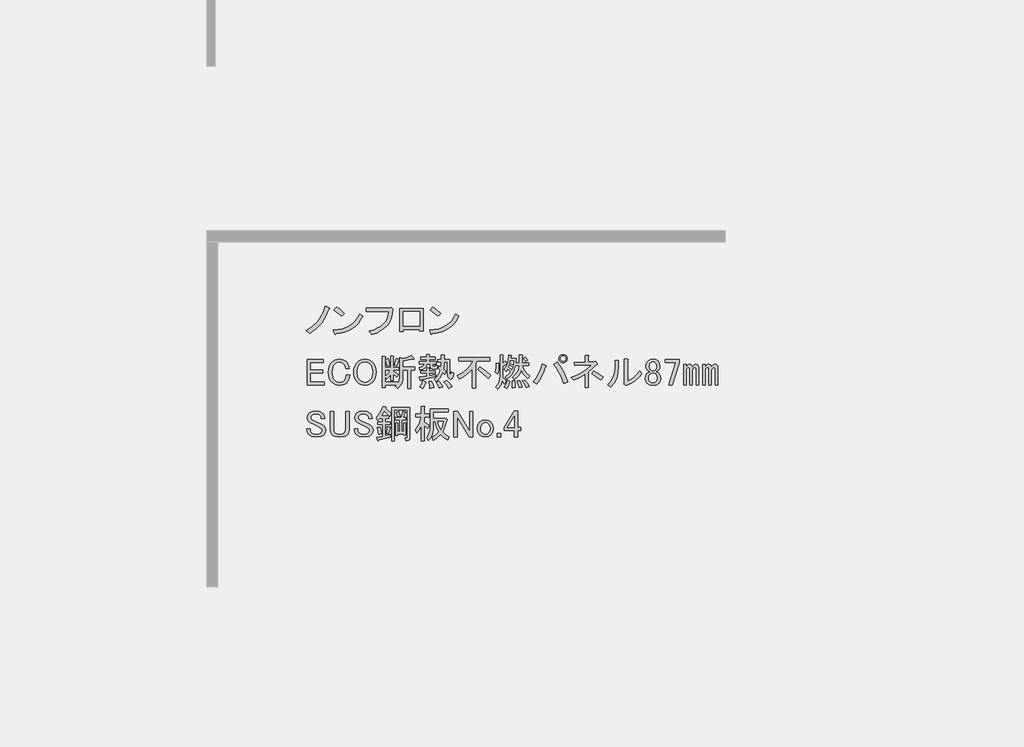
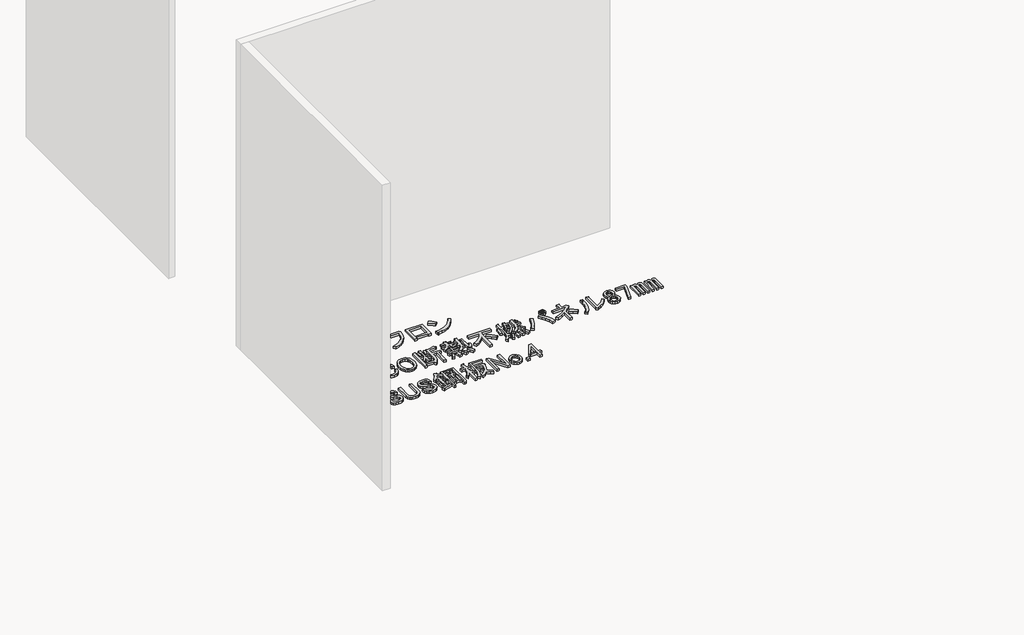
# One storey, part 63 of 117: 1 proxy.
"""IFC4 building model written with IfcOpenShell, lengths in millimetres."""

from ifc_helpers import new_model, si_unit, frame, origin, place, context, project, spatial, polyline, outline, extrude, element, save

model = new_model("IFC4")

# Units and contexts
model_context = context("Model", 3, world=origin())
ifc_project = project(units=[si_unit("LENGTHUNIT", "METRE", prefix="MILLI")], contexts=[model_context])

# Site, building, storey
site = spatial("IfcSite", under=ifc_project)
building = spatial("IfcBuilding", under=site)
storey = spatial("IfcBuildingStorey", under=building, Name="レベル 1", Elevation=500.0)

# Proxy
placement = place(None, origin())
element("IfcBuildingElementProxy", 1, Name="200㎜\u3000MS Pゴシック", ObjectType="200㎜\u3000MS Pゴシック", at=placement, inside=storey, context=model_context, shape_type="SweptSolid", body=[
    extrude(outline(polyline([(48940.1706985, -603.5496882), (48914.5952502, -663.3215225), (48886.146156, -709.2998566), (48844.4782907, -754.7034615), (48795.3389462, -792.060858), (48767.7519457, -770.2211493), (48815.4544673, -739.7605029), (48855.1107805, -701.2536481), (48872.4963381, -677.3305462), (48887.8703435, -649.2406577), (48901.2327969, -616.9839827), (48912.5836981, -580.5605212), (48943.6190736, -594.3540214), (48946.7800841, -598.9518548), (48940.1706985, -603.5496882)])), frame((0.0, 0.0, 500.0), z_axis=(0.0, 0.0, 1.0), x_axis=(1.0, 0.0, 0.0)), (0.0, 0.0, 1.0), 25.0),
    extrude(outline(polyline([(49039.8977052, -658.7236891), (48981.2753292, -611.5958967), (49000.8161212, -587.4572713), (49028.1157571, -607.2854279), (49061.7374138, -636.8839804), (49039.8977052, -658.7236891)])), frame((0.0, 0.0, 500.0), z_axis=(0.0, 0.0, 1.0), x_axis=(1.0, 0.0, 0.0)), (0.0, 0.0, 1.0), 25.0),
    extrude(outline(polyline([(49201.9713328, -658.7236891), (49185.447869, -688.465924), (49166.3381239, -714.4724192), (49144.6420975, -736.7431748), (49120.3597898, -755.2781907), (49093.4912008, -770.077467), (49064.0363306, -781.1410036), (49031.995179, -788.4688006), (48997.3677461, -792.060858), (48991.6204544, -800.1070664), (48985.8731626, -794.3597747), (48976.6774958, -764.4738575), (49012.5082679, -761.7977748), (49045.2857912, -755.4937141), (49075.0100658, -745.5616756), (49101.6810916, -732.0016591), (49125.2988687, -714.8136646), (49145.863397, -693.9976923), (49163.3746766, -669.553742), (49177.8327074, -641.4818138), (49201.9713328, -658.7236891)])), frame((0.0, 0.0, 500.0), z_axis=(0.0, 0.0, 1.0), x_axis=(1.0, 0.0, 0.0)), (0.0, 0.0, 1.0), 25.0),
    extrude(outline(polyline([(49252.7314136, -773.6695243), (49286.514713, -763.9889298), (49316.0234641, -751.6142922), (49341.257667, -736.5456116), (49362.2173217, -718.782888), (49378.902428, -698.3261214), (49391.3129862, -675.1753118), (49399.4489961, -649.3304591), (49403.3104577, -620.7915635), (49230.8917049, -620.7915635), (49230.8917049, -595.5034798), (49405.6093744, -595.5034798), (49421.7017914, -592.0551047), (49434.3458332, -603.5496882), (49430.825617, -640.0449909), (49422.5638851, -673.0919185), (49409.5606375, -702.6904711), (49391.8158742, -728.8406486), (49369.3295952, -751.542451), (49342.1018005, -770.7958784), (49310.1324901, -786.6009308), (49273.421664, -798.9576081), (49252.7314136, -773.6695243)])), frame((0.0, 0.0, 500.0), z_axis=(0.0, 0.0, 1.0), x_axis=(1.0, 0.0, 0.0)), (0.0, 0.0, 1.0), 25.0),
    extrude(outline(polyline([(49667.455987, -772.520066), (49641.0184449, -772.520066), (49641.0184449, -759.8760241), (49513.4285679, -759.8760241), (49513.4285679, -778.2673577), (49486.9910258, -778.2673577), (49486.9910258, -598.9518548), (49667.455987, -598.9518548), (49667.455987, -772.520066)]), holes=[polyline([(49513.4285679, -624.2399386), (49513.4285679, -734.5879404), (49641.0184449, -734.5879404), (49641.0184449, -624.2399386), (49513.4285679, -624.2399386)])]), frame((0.0, 0.0, 500.0), z_axis=(0.0, 0.0, 1.0), x_axis=(1.0, 0.0, 0.0)), (0.0, 0.0, 1.0), 25.0),
    extrude(outline(polyline([(49943.5099049, -658.7236891), (49926.9864411, -688.465924), (49907.876696, -714.4724192), (49886.1806696, -736.7431748), (49861.8983619, -755.2781907), (49835.0297729, -770.077467), (49805.5749026, -781.1410036), (49773.5337511, -788.4688006), (49738.9063182, -792.060858), (49733.1590264, -800.1070664), (49727.4117347, -794.3597747), (49718.2160679, -764.4738575), (49754.0468399, -761.7977748), (49786.8243633, -755.4937141), (49816.5486378, -745.5616756), (49843.2196637, -732.0016591), (49866.8374407, -714.8136646), (49887.4019691, -693.9976923), (49904.9132486, -669.553742), (49919.3712795, -641.4818138), (49943.5099049, -658.7236891)])), frame((0.0, 0.0, 500.0), z_axis=(0.0, 0.0, 1.0), x_axis=(1.0, 0.0, 0.0)), (0.0, 0.0, 1.0), 25.0),
    extrude(outline(polyline([(49781.4362772, -658.7236891), (49722.8139013, -611.5958967), (49742.3546933, -587.4572713), (49769.6543291, -607.2854279), (49803.2759859, -636.8839804), (49781.4362772, -658.7236891)])), frame((0.0, 0.0, 500.0), z_axis=(0.0, 0.0, 1.0), x_axis=(1.0, 0.0, 0.0)), (0.0, 0.0, 1.0), 25.0),
    extrude(outline(polyline([(48773.4992375, -992.0551047), (48899.9396562, -992.0551047), (48899.9396562, -1013.8948134), (48799.9367796, -1013.8948134), (48799.9367796, -1074.816106), (48893.0429061, -1074.816106), (48893.0429061, -1096.6558147), (48799.9367796, -1096.6558147), (48799.9367796, -1166.7727742), (48905.686948, -1166.7727742), (48905.686948, -1188.6124829), (48773.4992375, -1188.6124829), (48773.4992375, -992.0551047)])), frame((0.0, 0.0, 500.0), z_axis=(0.0, 0.0, 1.0), x_axis=(1.0, 0.0, 0.0)), (0.0, 0.0, 1.0), 25.0),
    extrude(outline(polyline([(48937.7798252, -1090.908523), (48939.5758538, -1066.985421), (48944.9639399, -1045.7922827), (48953.9440832, -1027.3291079), (48966.516284, -1011.5958967), (48991.5170031, -995.2161152), (49022.8397432, -989.756188), (49053.5877541, -994.641386), (49076.8642858, -1009.29698), (49092.6693381, -1032.8608762), (49098.7039944, -1062.1720642), (49071.116994, -1062.1720642), (49066.231796, -1040.9070847), (49056.1740354, -1025.3893969), (49040.9437123, -1015.0442717), (49022.8397432, -1011.5958967), (49003.2989512, -1015.6190009), (48986.0570759, -1027.6883136), (48977.0050914, -1039.3984206), (48970.5393882, -1053.8384911), (48965.3668256, -1090.908523), (48970.5393882, -1127.9785548), (48977.0050914, -1142.4186254), (48986.0570759, -1154.1287323), (49002.7242221, -1165.3359513), (49022.8397432, -1169.0716909), (49043.242629, -1165.9106804), (49058.4729521, -1156.427649), (49070.5422648, -1136.8868571), (49074.5653691, -1110.449315), (49102.1523695, -1110.449315), (49095.8303486, -1145.2204301), (49088.7899162, -1159.3731361), (49079.1632025, -1171.3706076), (49068.3151893, -1179.9197041), (49055.3119417, -1186.0262016), (49022.8397432, -1190.9113996), (48991.5170031, -1185.4514724), (48966.516284, -1169.0716909), (48953.9440832, -1153.4103209), (48944.9639399, -1135.1626695), (48939.5758538, -1114.3287369), (48937.7798252, -1090.908523)])), frame((0.0, 0.0, 500.0), z_axis=(0.0, 0.0, 1.0), x_axis=(1.0, 0.0, 0.0)), (0.0, 0.0, 1.0), 25.0),
    extrude(outline(polyline([(49133.1417667, -1089.7590646), (49134.8659542, -1066.9135799), (49140.0385168, -1046.6543764), (49148.6594544, -1028.9814543), (49160.7287671, -1013.8948134), (49173.4446501, -1003.3341648), (49187.4536738, -995.7908443), (49202.7558381, -991.2648521), (49219.3511431, -989.756188), (49235.946448, -991.2648521), (49251.2486123, -995.7908443), (49265.257636, -1003.3341648), (49277.973519, -1013.8948134), (49290.0428317, -1028.9814543), (49298.6637694, -1046.6543764), (49303.836332, -1066.9135799), (49305.5605195, -1089.7590646), (49303.836332, -1112.6045494), (49298.6637694, -1132.8637528), (49290.0428317, -1150.536675), (49277.973519, -1165.6233159), (49265.257636, -1176.1839645), (49251.2486123, -1183.7272849), (49235.946448, -1188.2532772), (49219.3511431, -1189.7619413), (49202.7558381, -1188.2532772), (49187.4536738, -1183.7272849), (49173.4446501, -1176.1839645), (49160.7287671, -1165.6233159), (49148.6594544, -1150.536675), (49140.0385168, -1132.8637528), (49134.8659542, -1112.6045494), (49133.1417667, -1089.7590646)]), holes=[polyline([(49219.3511431, -1011.5958967), (49198.6608927, -1015.9063655), (49180.2695591, -1028.837772), (49171.7204626, -1039.9731498), (49165.6139651, -1053.8384911), (49160.7287671, -1089.7590646), (49165.6139651, -1125.6796381), (49171.7204626, -1139.5449795), (49180.2695591, -1150.6803573), (49198.6608927, -1163.6117637), (49219.3511431, -1167.9222326), (49240.0413934, -1163.6117637), (49258.432727, -1150.6803573), (49266.9818235, -1139.5449795), (49273.088321, -1125.6796381), (49277.973519, -1089.7590646), (49273.088321, -1053.8384911), (49266.9818235, -1039.9731498), (49258.432727, -1028.837772), (49240.0413934, -1015.9063655), (49219.3511431, -1011.5958967)])]), frame((0.0, 0.0, 500.0), z_axis=(0.0, 0.0, 1.0), x_axis=(1.0, 0.0, 0.0)), (0.0, 0.0, 1.0), 25.0),
    extrude(outline(polyline([(49444.3691101, -1035.7345221), (49461.6109854, -982.8594379), (49482.3012357, -988.6067296), (49484.0254232, -991.7677401), (49480.002319, -994.3540214), (49462.7604437, -1042.6312722), (49444.3691101, -1035.7345221)])), frame((0.0, 0.0, 500.0), z_axis=(0.0, 0.0, 1.0), x_axis=(1.0, 0.0, 0.0)), (0.0, 0.0, 1.0), 25.0),
    extrude(outline(polyline([(49598.3965292, -987.4572713), (49596.6723417, -992.0551047), (49589.2008624, -989.756188), (49512.1871528, -1002.4002299), (49512.1871528, -1051.826939), (49604.143821, -1051.826939), (49604.143821, -1073.6666477), (49573.1084455, -1073.6666477), (49573.1084455, -1213.9005666), (49550.1192785, -1213.9005666), (49550.1192785, -1073.6666477), (49512.1871528, -1073.6666477), (49512.1871528, -1123.0933568), (49509.6008716, -1150.8958807), (49501.8420277, -1175.6810764), (49488.9106212, -1197.448944), (49470.8066522, -1216.1994833), (49453.5647769, -1196.6586914), (49463.9099021, -1187.4630245), (49374.2521506, -1187.4630245), (49374.2521506, -1209.3027332), (49351.2629836, -1209.3027332), (49351.2629836, -970.215396), (49373.1026922, -970.215396), (49377.9878902, -972.5143127), (49374.2521506, -977.1121461), (49374.2521506, -1052.9763974), (49416.7821096, -1052.9763974), (49416.7821096, -965.6175626), (49435.1734433, -965.6175626), (49440.0586413, -967.9164793), (49436.3229016, -972.5143127), (49436.3229016, -1052.9763974), (49480.002319, -1052.9763974), (49480.002319, -1071.367731), (49436.3229016, -1071.367731), (49436.3229016, -1080.5633978), (49476.5539439, -1107.0009399), (49462.7604437, -1128.8406486), (49436.3229016, -1102.4031065), (49436.3229016, -1155.2781907), (49416.7821096, -1155.2781907), (49416.7821096, -1107.0009399), (49403.5633386, -1126.8290965), (49389.1951092, -1142.6341488), (49376.5510673, -1124.2428152), (49398.390776, -1100.1041898), (49415.6326513, -1071.367731), (49374.2521506, -1071.367731), (49374.2521506, -1165.6233159), (49471.9561105, -1165.6233159), (49471.9561105, -1179.4168161), (49484.887517, -1155.2781907), (49489.1979858, -1121.9438985), (49489.1979858, -977.1121461), (49511.0376945, -982.8594379), (49547.2456326, -975.3879586), (49577.7062789, -962.1691875), (49598.3965292, -987.4572713)])), frame((0.0, 0.0, 500.0), z_axis=(0.0, 0.0, 1.0), x_axis=(1.0, 0.0, 0.0)), (0.0, 0.0, 1.0), 25.0),
    extrude(outline(polyline([(49390.3445675, -1043.7807305), (49377.7005257, -993.2045631), (49397.2413176, -986.3078129), (49405.0001615, -1010.4464383), (49409.8853595, -1036.8839804), (49390.3445675, -1043.7807305)])), frame((0.0, 0.0, 500.0), z_axis=(0.0, 0.0, 1.0), x_axis=(1.0, 0.0, 0.0)), (0.0, 0.0, 1.0), 25.0),
    extrude(outline(polyline([(49734.0326148, -1159.8760241), (49744.0903754, -1187.17566), (49748.9755734, -1209.3027332), (49720.2391146, -1215.050025), (49717.6528333, -1193.4976809), (49709.8939894, -1163.3243992), (49734.0326148, -1159.8760241)])), frame((0.0, 0.0, 500.0), z_axis=(0.0, 0.0, 1.0), x_axis=(1.0, 0.0, 0.0)), (0.0, 0.0, 1.0), 25.0),
    extrude(outline(polyline([(49790.356074, -1212.7511083), (49782.022501, -1188.0377537), (49768.5163654, -1166.7727742), (49789.2066157, -1158.7265657), (49806.1611264, -1180.2789098), (49817.9430745, -1203.5554415), (49790.356074, -1212.7511083)])), frame((0.0, 0.0, 500.0), z_axis=(0.0, 0.0, 1.0), x_axis=(1.0, 0.0, 0.0)), (0.0, 0.0, 1.0), 25.0),
    extrude(outline(polyline([(49689.2037391, -1164.4738575), (49692.6521141, -1169.3590555), (49686.9048224, -1172.520066), (49677.1344264, -1198.0955143), (49666.214572, -1217.3489417), (49643.225405, -1205.8543582), (49655.8694469, -1182.290462), (49666.214572, -1155.2781907), (49689.2037391, -1164.4738575)])), frame((0.0, 0.0, 500.0), z_axis=(0.0, 0.0, 1.0), x_axis=(1.0, 0.0, 0.0)), (0.0, 0.0, 1.0), 25.0),
    extrude(outline(polyline([(49721.3885729, -1027.6883136), (49696.1004892, -1027.6883136), (49691.5026558, -1045.1457123), (49681.1575306, -1058.4363245), (49665.0651137, -1067.5601502), (49643.225405, -1072.5171893), (49638.6275716, -1052.9763974), (49663.9156553, -1044.3554597), (49671.3871346, -1037.0276627), (49675.4102388, -1027.6883136), (49639.7770299, -1027.6883136), (49639.7770299, -1009.29698), (49693.8015725, -1009.29698), (49693.8015725, -992.0551047), (49650.1221551, -992.0551047), (49650.1221551, -973.6637711), (49693.8015725, -973.6637711), (49693.8015725, -955.2724374), (49715.6412812, -955.2724374), (49720.5264792, -957.5713541), (49716.7907395, -962.1691875), (49716.7907395, -973.6637711), (49759.3206985, -973.6637711), (49759.3206985, -992.0551047), (49716.7907395, -992.0551047), (49716.7907395, -1009.29698), (49769.6658237, -1009.29698), (49769.6658237, -1027.6883136), (49740.9293649, -1027.6883136), (49740.9293649, -1040.3323555), (49742.3661878, -1045.5049181), (49746.6766567, -1047.2291056), (49757.0217818, -1047.2291056), (49760.7575215, -1044.0680951), (49760.4701569, -1034.5850637), (49780.0109489, -1036.8839804), (49777.137303, -1058.4363245), (49771.8210581, -1063.8244106), (49763.9185319, -1065.6204392), (49739.7799066, -1065.6204392), (49725.9864063, -1060.7352412), (49721.3885729, -1046.0796472), (49721.3885729, -1027.6883136)])), frame((0.0, 0.0, 500.0), z_axis=(0.0, 0.0, 1.0), x_axis=(1.0, 0.0, 0.0)), (0.0, 0.0, 1.0), 25.0),
    extrude(outline(polyline([(49852.4268251, -1010.4464383), (49830.5871164, -1010.4464383), (49825.989283, -1067.9193559), (49845.5300749, -1086.3106896), (49835.1849498, -1108.1503983), (49819.0925328, -1092.0579813), (49799.8391054, -1129.7027424), (49769.6658237, -1162.1749408), (49752.4239484, -1141.4846905), (49767.5105893, -1129.5590601), (49780.585678, -1114.4724192), (49791.6492147, -1096.2247679), (49800.7011992, -1074.816106), (49783.4593239, -1059.8731475), (49791.5055324, -1042.6312722), (49805.2990326, -1052.9763974), (49807.5979493, -1010.4464383), (49780.0109489, -1010.4464383), (49780.0109489, -992.0551047), (49807.5979493, -992.0551047), (49807.5979493, -957.5713541), (49829.437658, -957.5713541), (49834.322856, -959.8702708), (49830.5871164, -964.4681043), (49830.5871164, -992.0551047), (49871.967617, -992.0551047), (49871.967617, -1088.6096063), (49875.4159921, -1112.7482317), (49878.6488437, -1114.7597838), (49881.4506484, -1111.5987733), (49885.7611173, -1089.7590646), (49905.3019092, -1096.6558147), (49900.775917, -1123.4525626), (49892.945232, -1139.4731384), (49881.8098542, -1144.7175421), (49867.3697836, -1139.1857738), (49860.8322393, -1131.8579768), (49856.1625647, -1120.219711), (49852.4268251, -1084.0117729), (49852.4268251, -1010.4464383)])), frame((0.0, 0.0, 500.0), z_axis=(0.0, 0.0, 1.0), x_axis=(1.0, 0.0, 0.0)), (0.0, 0.0, 1.0), 25.0),
    extrude(outline(polyline([(49651.2716134, -1149.5308989), (49649.2600613, -1154.4160969), (49645.5243217, -1152.979274), (49639.7770299, -1128.8406486), (49694.9510308, -1120.7944401), (49694.9510308, -1097.8052731), (49651.2716134, -1097.8052731), (49651.2716134, -1079.4139395), (49694.9510308, -1079.4139395), (49694.9510308, -1056.4247724), (49713.3423645, -1056.4247724), (49718.2275625, -1058.7236891), (49714.4918228, -1063.3215225), (49714.4918228, -1079.4139395), (49759.3206985, -1079.4139395), (49759.3206985, -1097.8052731), (49714.4918228, -1097.8052731), (49714.4918228, -1117.3460651), (49765.0679903, -1108.1503983), (49765.0679903, -1124.2428152), (49651.2716134, -1149.5308989)])), frame((0.0, 0.0, 500.0), z_axis=(0.0, 0.0, 1.0), x_axis=(1.0, 0.0, 0.0)), (0.0, 0.0, 1.0), 25.0),
    extrude(outline(polyline([(49848.97845, -1154.1287323), (49873.6918046, -1175.3937119), (49892.6578674, -1200.1070664), (49866.2203253, -1215.050025), (49846.9668979, -1185.4514724), (49828.2881997, -1165.6233159), (49848.97845, -1154.1287323)])), frame((0.0, 0.0, 500.0), z_axis=(0.0, 0.0, 1.0), x_axis=(1.0, 0.0, 0.0)), (0.0, 0.0, 1.0), 25.0),
    extrude(outline(polyline([(50167.3784135, -1138.0363154), (50128.2968295, -1099.8168252), (50086.9163289, -1070.2182726), (50103.0087458, -1049.5280223), (50146.6881632, -1077.6897519), (50188.0686638, -1116.1966067), (50167.3784135, -1138.0363154)])), frame((0.0, 0.0, 500.0), z_axis=(0.0, 0.0, 1.0), x_axis=(1.0, 0.0, 0.0)), (0.0, 0.0, 1.0), 25.0),
    extrude(outline(polyline([(49940.9351182, -977.1121461), (50182.3213721, -977.1121461), (50182.3213721, -1002.4002299), (50082.3184955, -1002.4002299), (50071.9733703, -1026.5388553), (50071.9733703, -1212.7511083), (50045.5358282, -1212.7511083), (50045.5358282, -1065.6204392), (50024.7018956, -1088.8969709), (50001.2816816, -1109.2998566), (49975.2751864, -1126.8290965), (49946.6824099, -1141.4846905), (49930.589993, -1115.0471484), (49970.174465, -1094.6442626), (50003.8679629, -1069.0688143), (50031.6704868, -1038.3208034), (50053.5820367, -1002.4002299), (49940.9351182, -1002.4002299), (49940.9351182, -977.1121461)])), frame((0.0, 0.0, 500.0), z_axis=(0.0, 0.0, 1.0), x_axis=(1.0, 0.0, 0.0)), (0.0, 0.0, 1.0), 25.0),
    extrude(outline(polyline([(50354.7401249, -1211.6016499), (50355.3148541, -1184.5893787), (50352.4412082, -1156.427649), (50371.9820002, -1155.2781907), (50378.3040211, -1181.4283682), (50378.8787503, -1209.3027332), (50354.7401249, -1211.6016499)])), frame((0.0, 0.0, 500.0), z_axis=(0.0, 0.0, 1.0), x_axis=(1.0, 0.0, 0.0)), (0.0, 0.0, 1.0), 25.0),
    extrude(outline(polyline([(50335.1993329, -1159.8760241), (50326.5783953, -1190.3366704), (50312.2101659, -1217.3489417), (50292.6693739, -1204.7048998), (50306.7502387, -1179.9915453), (50316.8079993, -1151.8298156), (50335.1993329, -1159.8760241)])), frame((0.0, 0.0, 500.0), z_axis=(0.0, 0.0, 1.0), x_axis=(1.0, 0.0, 0.0)), (0.0, 0.0, 1.0), 25.0),
    extrude(outline(polyline([(50250.1394149, -1021.9410219), (50254.7372483, -1024.2399386), (50250.1394149, -1028.837772), (50248.9899565, -1068.4940851), (50243.2426647, -1102.4031065), (50224.8513311, -1089.7590646), (50230.5986229, -1055.2753141), (50231.7480812, -1018.4926468), (50250.1394149, -1021.9410219)])), frame((0.0, 0.0, 500.0), z_axis=(0.0, 0.0, 1.0), x_axis=(1.0, 0.0, 0.0)), (0.0, 0.0, 1.0), 25.0),
    extrude(outline(polyline([(50301.8650407, -1003.5496882), (50311.0607075, -1020.7915635), (50312.4975305, -1026.8262199), (50307.6123325, -1026.5388553), (50281.1747904, -1047.2291056), (50281.1747904, -1131.1395653), (50294.9682906, -1143.4962426), (50306.4628741, -1159.8760241), (50293.8188322, -1180.5662744), (50275.4274986, -1155.2781907), (50263.6455505, -1191.1987642), (50242.0932064, -1220.7973168), (50227.1502478, -1202.4059831), (50242.2368887, -1183.6554438), (50253.0130607, -1163.0370346), (50259.478764, -1140.5507556), (50261.6339984, -1116.1966067), (50261.6339984, -958.7208125), (50280.025332, -958.7208125), (50284.91053, -961.0197292), (50281.1747904, -965.6175626), (50281.1747904, -1024.2399386), (50301.8650407, -1003.5496882)])), frame((0.0, 0.0, 500.0), z_axis=(0.0, 0.0, 1.0), x_axis=(1.0, 0.0, 0.0)), (0.0, 0.0, 1.0), 25.0),
    extrude(outline(polyline([(50452.4440848, -972.5143127), (50474.2837935, -996.6529381), (50457.0419182, -1008.1475216), (50450.4325327, -996.6529381), (50437.5011262, -982.8594379), (50452.4440848, -972.5143127)])), frame((0.0, 0.0, 500.0), z_axis=(0.0, 0.0, 1.0), x_axis=(1.0, 0.0, 0.0)), (0.0, 0.0, 1.0), 25.0),
    extrude(outline(polyline([(50462.78921, -1209.3027332), (50449.5704389, -1181.1410036), (50432.9032928, -1156.427649), (50451.2946265, -1148.3814406), (50470.2606893, -1171.3706076), (50485.778377, -1198.9576081), (50462.78921, -1209.3027332)])), frame((0.0, 0.0, 500.0), z_axis=(0.0, 0.0, 1.0), x_axis=(1.0, 0.0, 0.0)), (0.0, 0.0, 1.0), 25.0),
    extrude(outline(polyline([(50413.3625008, -1154.1287323), (50431.7538345, -1203.5554415), (50407.6152091, -1208.1532749), (50393.8217089, -1157.5771074), (50413.3625008, -1154.1287323)])), frame((0.0, 0.0, 500.0), z_axis=(0.0, 0.0, 1.0), x_axis=(1.0, 0.0, 0.0)), (0.0, 0.0, 1.0), 25.0),
    extrude(outline(polyline([(50474.2837935, -1139.1857738), (50443.5357826, -1108.7251274), (50422.5581677, -1074.816106), (50414.1527535, -1096.9431793), (50402.7300111, -1116.1966067), (50388.2899405, -1132.5763882), (50370.8325418, -1146.0825239), (50357.0390416, -1127.6911902), (50377.8729742, -1108.7969686), (50393.2469797, -1087.7475125), (50403.161058, -1064.542822), (50407.6152091, -1039.1828971), (50378.8787503, -1039.1828971), (50370.904383, -1069.7872258), (50357.3264062, -1097.2305439), (50338.1448199, -1121.5128516), (50313.3596242, -1142.6341488), (50300.7155823, -1126.5417319), (50326.5783953, -1104.9893878), (50342.096083, -1084.0117729), (50320.2563743, -1064.4709809), (50306.4628741, -1085.1612312), (50292.6693739, -1070.2182726), (50305.0978923, -1051.1803687), (50314.7964472, -1026.2514907), (50321.7650384, -995.4316386), (50326.0036661, -958.7208125), (50346.6939164, -961.0197292), (50350.1422915, -963.6060105), (50344.3949997, -966.767021), (50342.096083, -985.1583546), (50385.7755004, -985.1583546), (50382.3271253, -1020.7915635), (50407.6152091, -1020.7915635), (50407.6152091, -958.7208125), (50429.4549178, -958.7208125), (50434.3401158, -961.0197292), (50430.6043761, -965.6175626), (50430.6043761, -1020.7915635), (50480.0310853, -1020.7915635), (50480.0310853, -1039.1828971), (50430.6043761, -1039.1828971), (50437.1419205, -1060.9507647), (50448.7083452, -1081.4254916), (50465.3036501, -1100.6070778), (50486.9278354, -1118.4955234), (50474.2837935, -1139.1857738)]), holes=[polyline([(50350.1422915, -1069.0688143), (50357.0390416, -1049.5280223), (50331.7509579, -1033.4356054), (50326.0036661, -1050.6774807), (50350.1422915, -1069.0688143)]), polyline([(50339.7971663, -1003.5496882), (50336.3487913, -1019.6421052), (50361.636875, -1033.4356054), (50366.2347084, -1003.5496882), (50339.7971663, -1003.5496882)])]), frame((0.0, 0.0, 500.0), z_axis=(0.0, 0.0, 1.0), x_axis=(1.0, 0.0, 0.0)), (0.0, 0.0, 1.0), 25.0),
    extrude(outline(polyline([(50699.5776305, -1012.745355), (50726.230696, -1049.4561812), (50748.7169751, -1087.1727833), (50767.0364675, -1125.8951616), (50781.1891735, -1165.6233159), (50750.153798, -1175.968441), (50734.7079514, -1132.8637528), (50717.1068704, -1094.356898), (50697.350555, -1060.4478766), (50675.4390051, -1031.1366887), (50699.5776305, -1012.745355)])), frame((0.0, 0.0, 500.0), z_axis=(0.0, 0.0, 1.0), x_axis=(1.0, 0.0, 0.0)), (0.0, 0.0, 1.0), 25.0),
    extrude(outline(polyline([(50612.2187958, -1039.1828971), (50616.2419, -1044.6428243), (50609.919879, -1049.5280223), (50597.9942486, -1084.9457078), (50582.9076078, -1118.782888), (50564.6599564, -1151.039563), (50543.2512946, -1181.7157328), (50516.8137525, -1164.4738575), (50540.018443, -1133.0074351), (50559.056347, -1099.5294606), (50573.9274644, -1064.039934), (50584.6317953, -1026.5388553), (50612.2187958, -1039.1828971)])), frame((0.0, 0.0, 500.0), z_axis=(0.0, 0.0, 1.0), x_axis=(1.0, 0.0, 0.0)), (0.0, 0.0, 1.0), 25.0),
    extrude(outline(polyline([(50745.5559646, -1018.4926468), (50732.9119227, -1016.1937301), (50722.5667975, -1009.29698), (50715.6700474, -998.9518548), (50713.3711307, -986.3078129), (50715.6700474, -973.6637711), (50722.5667975, -963.3186459), (50732.9119227, -956.4218958), (50745.5559646, -954.1229791), (50758.2000065, -956.4218958), (50768.5451316, -963.3186459), (50775.4418817, -973.6637711), (50777.7407984, -986.3078129), (50775.4418817, -998.9518548), (50768.5451316, -1009.29698), (50758.2000065, -1016.1937301), (50745.5559646, -1018.4926468)]), holes=[polyline([(50745.5559646, -1006.9980633), (50753.8895376, -1005.5612403), (50760.4989232, -1001.2507715), (50764.809392, -994.641386), (50766.2462149, -986.3078129), (50764.809392, -977.9742399), (50760.4989232, -971.3648544), (50753.8895376, -967.0543855), (50745.5559646, -965.6175626), (50737.2223915, -967.0543855), (50730.613006, -971.3648544), (50726.3025372, -977.9742399), (50724.8657143, -986.3078129), (50726.3025372, -994.641386), (50730.613006, -1001.2507715), (50737.2223915, -1005.5612403), (50745.5559646, -1006.9980633)])]), frame((0.0, 0.0, 500.0), z_axis=(0.0, 0.0, 1.0), x_axis=(1.0, 0.0, 0.0)), (0.0, 0.0, 1.0), 25.0),
    extrude(outline(polyline([(50989.2411352, -1008.1475216), (50996.1378853, -1005.8486049), (51008.7819272, -1023.0904802), (51009.9313856, -1029.1251366), (51004.1840938, -1031.1366887), (50940.9638844, -1087.4601479), (50940.9638844, -1208.1532749), (50914.5263423, -1208.1532749), (50914.5263423, -1105.8514816), (50874.2953, -1129.9901069), (50829.4664243, -1151.8298156), (50809.9256323, -1131.1395653), (50855.4729195, -1111.6706145), (50896.7097379, -1088.8969709), (50933.6360874, -1062.8186345), (50966.2519682, -1033.4356054), (50836.3631744, -1039.1828971), (50832.9147993, -1013.8948134), (50914.5263423, -1011.5958967), (50914.5263423, -959.8702708), (50937.5155094, -959.8702708), (50943.5501657, -963.3186459), (50940.9638844, -969.0659377), (50940.9638844, -1010.4464383), (50989.2411352, -1008.1475216)])), frame((0.0, 0.0, 500.0), z_axis=(0.0, 0.0, 1.0), x_axis=(1.0, 0.0, 0.0)), (0.0, 0.0, 1.0), 25.0),
    extrude(outline(polyline([(51035.2194693, -1151.8298156), (50998.1494375, -1122.5186277), (50965.1025098, -1101.2536481), (50982.3443851, -1079.4139395), (51021.1386045, -1102.6904711), (51054.7602613, -1128.8406486), (51035.2194693, -1151.8298156)])), frame((0.0, 0.0, 500.0), z_axis=(0.0, 0.0, 1.0), x_axis=(1.0, 0.0, 0.0)), (0.0, 0.0, 1.0), 25.0),
    extrude(outline(polyline([(51242.2139293, -1158.7265657), (51266.9991251, -1146.5135708), (51290.7785447, -1129.4153778), (51313.5521883, -1107.4319868), (51335.3200559, -1080.5633978), (51351.4124728, -1102.4031065), (51328.1359412, -1130.2056304), (51301.9857636, -1153.8413678), (51272.9619403, -1173.3103186), (51241.064471, -1188.6124829), (51231.8688042, -1193.2103163), (51213.4774705, -1179.4168161), (51215.7763872, -1173.6695243), (51215.7763872, -988.6067296), (51239.9150126, -988.6067296), (51245.6623044, -992.0551047), (51242.2139293, -997.8023965), (51242.2139293, -1158.7265657)])), frame((0.0, 0.0, 500.0), z_axis=(0.0, 0.0, 1.0), x_axis=(1.0, 0.0, 0.0)), (0.0, 0.0, 1.0), 25.0),
    extrude(outline(polyline([(51088.1865102, -1189.7619413), (51113.3309116, -1160.5225944), (51131.2911984, -1127.9785548), (51142.0673704, -1092.1298225), (51145.6594278, -1052.9763974), (51145.6594278, -1001.2507715), (51169.7980532, -1001.2507715), (51175.5453449, -1004.6991466), (51172.0969699, -1010.4464383), (51172.0969699, -1051.826939), (51168.2893891, -1097.5897496), (51156.8666467, -1138.32368), (51137.8287427, -1174.0287301), (51111.1756772, -1204.7048998), (51088.1865102, -1189.7619413)])), frame((0.0, 0.0, 500.0), z_axis=(0.0, 0.0, 1.0), x_axis=(1.0, 0.0, 0.0)), (0.0, 0.0, 1.0), 25.0),
    extrude(outline(polyline([(51383.5973066, -1044.9301889), (51387.6204109, -1021.9410219), (51399.6897236, -1003.5496882), (51416.0695051, -993.2045631), (51437.6218492, -989.756188), (51459.4615579, -993.4919276), (51476.7034332, -1004.6991466), (51487.9106521, -1022.2283864), (51491.6463917, -1044.9301889), (51488.1980167, -1063.0341579), (51477.8528915, -1078.2644811), (51464.0593913, -1086.3106896), (51464.0593913, -1088.6096063), (51474.1171519, -1092.6327105), (51483.6001833, -1100.1041898), (51493.9453084, -1116.1966067), (51497.3936835, -1136.8868571), (51493.3705793, -1158.1518366), (51481.3012666, -1175.968441), (51462.9099329, -1187.17566), (51437.6218492, -1190.9113996), (51412.3337654, -1187.17566), (51393.9424318, -1175.968441), (51381.8731191, -1158.1518366), (51377.8500149, -1136.8868571), (51381.2983899, -1116.1966067), (51391.6435151, -1100.1041898), (51401.1265465, -1092.6327105), (51411.1843071, -1088.6096063), (51411.1843071, -1086.3106896), (51396.2413485, -1075.9655644), (51386.7583171, -1061.8846996), (51383.5973066, -1044.9301889)]), holes=[polyline([(51437.6218492, -1010.4464383), (51426.9893594, -1012.4579905), (51418.0810572, -1018.4926468), (51411.1843071, -1029.6998657), (51408.8853904, -1044.9301889), (51411.1843071, -1059.2984183), (51418.0810572, -1070.2182726), (51426.7019948, -1076.252929), (51436.4723908, -1078.2644811), (51448.5417035, -1076.5402936), (51457.1626412, -1071.367731), (51464.0593913, -1060.1605121), (51466.358308, -1044.9301889), (51464.0593913, -1029.6998657), (51457.1626412, -1018.4926468), (51448.2543389, -1012.4579905), (51437.6218492, -1010.4464383)]), polyline([(51437.6218492, -1097.8052731), (51424.1157136, -1100.1041898), (51413.4832238, -1107.0009399), (51406.5864737, -1118.2081588), (51404.287557, -1133.438482), (51406.8738383, -1148.9561698), (51414.6326821, -1161.0254825), (51424.9778073, -1167.9222326), (51437.6218492, -1170.2211493), (51450.2658911, -1167.9222326), (51460.6110162, -1161.0254825), (51468.3698601, -1148.9561698), (51470.9561414, -1133.438482), (51468.3698601, -1117.9207943), (51460.6110162, -1105.8514816), (51450.8406202, -1099.8168252), (51437.6218492, -1097.8052731)])]), frame((0.0, 0.0, 500.0), z_axis=(0.0, 0.0, 1.0), x_axis=(1.0, 0.0, 0.0)), (0.0, 0.0, 1.0), 25.0),
    extrude(outline(polyline([(51530.7279757, -992.0551047), (51639.9265191, -992.0551047), (51639.9265191, -1017.3431884), (51584.7525182, -1188.6124829), (51559.4644345, -1188.6124829), (51614.6384354, -1013.8948134), (51530.7279757, -1013.8948134), (51530.7279757, -992.0551047)])), frame((0.0, 0.0, 500.0), z_axis=(0.0, 0.0, 1.0), x_axis=(1.0, 0.0, 0.0)), (0.0, 0.0, 1.0), 25.0),
    extrude(outline(polyline([(51692.8016033, -1189.7619413), (51673.2608114, -1189.7619413), (51673.2608114, -1032.286147), (51692.8016033, -1032.286147), (51692.8016033, -1049.5280223), (51704.870916, -1034.0103346), (51718.0896871, -1028.837772), (51727.2853539, -1030.2745949), (51734.182104, -1034.5850637), (51741.0788541, -1048.378564), (51754.0102606, -1033.72297), (51767.5163962, -1028.837772), (51775.8499693, -1030.2745949), (51782.4593548, -1034.5850637), (51787.6319174, -1043.2060014), (51789.3561049, -1055.2753141), (51789.3561049, -1189.7619413), (51769.8153129, -1189.7619413), (51769.8153129, -1065.6204392), (51767.2290316, -1056.1374078), (51759.4701878, -1052.9763974), (51749.1250626, -1057.5742308), (51743.0904062, -1066.1951684), (51741.0788541, -1075.9655644), (51741.0788541, -1189.7619413), (51721.5380621, -1189.7619413), (51721.5380621, -1065.6204392), (51718.9517808, -1056.1374078), (51711.192937, -1052.9763974), (51700.8478118, -1057.5742308), (51694.8131555, -1066.1951684), (51692.8016033, -1075.9655644), (51692.8016033, -1189.7619413)])), frame((0.0, 0.0, 500.0), z_axis=(0.0, 0.0, 1.0), x_axis=(1.0, 0.0, 0.0)), (0.0, 0.0, 1.0), 25.0),
    extrude(outline(polyline([(51914.6470653, -1028.837772), (51922.9806383, -1030.2745949), (51929.5900239, -1034.5850637), (51934.7625864, -1043.2060014), (51936.486774, -1055.2753141), (51936.486774, -1189.7619413), (51916.945982, -1189.7619413), (51916.945982, -1065.6204392), (51914.3597007, -1056.1374078), (51906.6008568, -1052.9763974), (51896.2557317, -1057.5742308), (51890.2210753, -1066.1951684), (51888.2095232, -1075.9655644), (51888.2095232, -1189.7619413), (51868.6687312, -1189.7619413), (51868.6687312, -1065.6204392), (51866.0824499, -1056.1374078), (51858.323606, -1052.9763974), (51847.9784809, -1057.5742308), (51841.9438245, -1066.1951684), (51839.9322724, -1075.9655644), (51839.9322724, -1189.7619413), (51820.3914804, -1189.7619413), (51820.3914804, -1032.286147), (51839.9322724, -1032.286147), (51839.9322724, -1049.5280223), (51852.0015851, -1034.0103346), (51865.2203561, -1028.837772), (51874.416023, -1030.2745949), (51881.3127731, -1034.5850637), (51888.2095232, -1048.378564), (51901.1409296, -1033.72297), (51914.6470653, -1028.837772)])), frame((0.0, 0.0, 500.0), z_axis=(0.0, 0.0, 1.0), x_axis=(1.0, 0.0, 0.0)), (0.0, 0.0, 1.0), 25.0),
    extrude(outline(polyline([(48775.7981542, -1443.7807305), (48779.8212584, -1423.3778448), (48791.8905711, -1405.8486049), (48812.2934569, -1393.7792922), (48841.3172803, -1389.756188), (48872.6400204, -1394.3540214), (48895.3418228, -1408.1475216), (48907.4111355, -1425.6767615), (48911.4342397, -1446.0796472), (48884.9966976, -1446.0796472), (48882.6977809, -1433.4356054), (48875.8010308, -1423.0904802), (48862.5822598, -1415.3316363), (48843.616197, -1412.745355), (48823.2133112, -1415.0442717), (48810.2819048, -1421.9410219), (48804.2472484, -1430.5619595), (48802.2356963, -1440.3323555), (48806.8335297, -1455.2753141), (48827.52378, -1466.7698976), (48887.2956143, -1493.2074397), (48904.5374896, -1504.7020232), (48914.020521, -1518.4955234), (48917.1815315, -1534.5879404), (48913.1584273, -1555.8529199), (48901.0891146, -1573.6695243), (48891.1031951, -1581.2128448), (48878.3873121, -1586.6009308), (48844.7656553, -1590.9113996), (48811.1439985, -1585.738837), (48797.5660217, -1579.2731338), (48786.1432794, -1570.2211493), (48774.9360604, -1551.8298156), (48771.2003208, -1526.5417319), (48797.6378629, -1526.5417319), (48799.9367796, -1544.3583363), (48806.8335297, -1556.427649), (48822.9259466, -1565.9106804), (48845.9151137, -1569.0716909), (48866.8927286, -1566.198045), (48881.5483226, -1557.5771074), (48888.4450727, -1548.3814406), (48890.7439894, -1539.1857738), (48889.0198019, -1529.7027424), (48883.8472393, -1521.9438985), (48865.4559057, -1510.449315), (48835.5699885, -1496.6558147), (48802.2356963, -1481.7128562), (48786.1432794, -1471.367731), (48778.3844355, -1459.2984183), (48775.7981542, -1443.7807305)])), frame((0.0, 0.0, 500.0), z_axis=(0.0, 0.0, 1.0), x_axis=(1.0, 0.0, 0.0)), (0.0, 0.0, 1.0), 25.0),
    extrude(outline(polyline([(48951.2054987, -1392.0551047), (48977.6430408, -1392.0551047), (48977.6430408, -1529.9901069), (48980.2293221, -1544.6457009), (48987.988166, -1556.427649), (49003.5058537, -1565.9106804), (49024.7708332, -1569.0716909), (49046.0358128, -1565.9106804), (49061.5535005, -1556.427649), (49069.3123444, -1544.6457009), (49071.8986257, -1529.9901069), (49071.8986257, -1392.0551047), (49098.3361678, -1392.0551047), (49098.3361678, -1531.1395653), (49094.3130635, -1554.1287323), (49082.2437508, -1572.520066), (49071.7549434, -1580.5662744), (49058.6798546, -1586.3135662), (49024.7708332, -1590.9113996), (48990.8618119, -1586.3135662), (48977.7867231, -1580.5662744), (48967.2979156, -1572.520066), (48955.2286029, -1554.1287323), (48951.2054987, -1531.1395653), (48951.2054987, -1392.0551047)])), frame((0.0, 0.0, 500.0), z_axis=(0.0, 0.0, 1.0), x_axis=(1.0, 0.0, 0.0)), (0.0, 0.0, 1.0), 25.0),
    extrude(outline(polyline([(49140.6822135, -1443.7807305), (49144.7053177, -1423.3778448), (49156.7746304, -1405.8486049), (49177.1775161, -1393.7792922), (49206.2013395, -1389.756188), (49237.5240796, -1394.3540214), (49260.2258821, -1408.1475216), (49272.2951948, -1425.6767615), (49276.318299, -1446.0796472), (49249.8807569, -1446.0796472), (49247.5818402, -1433.4356054), (49240.6850901, -1423.0904802), (49227.466319, -1415.3316363), (49208.5002562, -1412.745355), (49188.0973705, -1415.0442717), (49175.165964, -1421.9410219), (49169.1313077, -1430.5619595), (49167.1197556, -1440.3323555), (49171.717589, -1455.2753141), (49192.4078393, -1466.7698976), (49252.1796736, -1493.2074397), (49269.4215489, -1504.7020232), (49278.9045803, -1518.4955234), (49282.0655908, -1534.5879404), (49278.0424865, -1555.8529199), (49265.9731738, -1573.6695243), (49255.9872544, -1581.2128448), (49243.2713714, -1586.6009308), (49209.6497146, -1590.9113996), (49176.0280578, -1585.738837), (49162.450081, -1579.2731338), (49151.0273386, -1570.2211493), (49139.8201197, -1551.8298156), (49136.0843801, -1526.5417319), (49162.5219222, -1526.5417319), (49164.8208389, -1544.3583363), (49171.717589, -1556.427649), (49187.8100059, -1565.9106804), (49210.7991729, -1569.0716909), (49231.7767879, -1566.198045), (49246.4323819, -1557.5771074), (49253.329132, -1548.3814406), (49255.6280487, -1539.1857738), (49253.9038611, -1529.7027424), (49248.7312986, -1521.9438985), (49230.3399649, -1510.449315), (49200.4540478, -1496.6558147), (49167.1197556, -1481.7128562), (49151.0273386, -1471.367731), (49143.2684948, -1459.2984183), (49140.6822135, -1443.7807305)])), frame((0.0, 0.0, 500.0), z_axis=(0.0, 0.0, 1.0), x_axis=(1.0, 0.0, 0.0)), (0.0, 0.0, 1.0), 25.0),
    extrude(outline(polyline([(49410.3451429, -1431.1366887), (49368.9646422, -1387.4572713), (49347.1249335, -1426.5388553), (49402.2989344, -1426.5388553), (49402.2989344, -1444.9301889), (49375.8613923, -1444.9301889), (49375.8613923, -1473.6666477), (49413.7935179, -1473.6666477), (49413.7935179, -1492.0579813), (49375.8613923, -1492.0579813), (49375.8613923, -1579.4168161), (49414.9429763, -1569.0716909), (49417.241893, -1588.6124829), (49325.2852248, -1613.9005666), (49322.9863081, -1619.6478584), (49318.3884747, -1616.1994833), (49311.4917246, -1593.2103163), (49356.3206003, -1584.0146495), (49356.3206003, -1492.0579813), (49318.3884747, -1492.0579813), (49318.3884747, -1473.6666477), (49356.3206003, -1473.6666477), (49356.3206003, -1444.9301889), (49334.4808916, -1444.9301889), (49319.537933, -1463.3215225), (49306.8938912, -1442.6312722), (49335.0556208, -1404.9865112), (49359.7689754, -1354.1229791), (49381.6086841, -1359.8702708), (49385.0570591, -1363.6060105), (49379.3097674, -1365.6175626), (49378.160309, -1369.0659377), (49422.9891847, -1406.9980633), (49410.3451429, -1431.1366887)])), frame((0.0, 0.0, 500.0), z_axis=(0.0, 0.0, 1.0), x_axis=(1.0, 0.0, 0.0)), (0.0, 0.0, 1.0), 25.0),
    extrude(outline(polyline([(49478.1631856, -1394.3540214), (49485.3473003, -1409.5843446), (49490.8072275, -1429.9872303), (49473.5653522, -1435.7345221), (49462.0707687, -1398.9518548), (49478.1631856, -1394.3540214)])), frame((0.0, 0.0, 500.0), z_axis=(0.0, 0.0, 1.0), x_axis=(1.0, 0.0, 0.0)), (0.0, 0.0, 1.0), 25.0),
    extrude(outline(polyline([(49531.0382698, -1395.5034798), (49533.6245511, -1398.9518548), (49527.5898948, -1402.4002299), (49514.9458529, -1440.3323555), (49535.6361032, -1440.3323555), (49535.6361032, -1458.7236891), (49504.6007277, -1458.7236891), (49504.6007277, -1547.2319822), (49519.5436863, -1547.2319822), (49519.5436863, -1479.4139395), (49535.6361032, -1479.4139395), (49535.6361032, -1573.6695243), (49519.5436863, -1573.6695243), (49519.5436863, -1565.6233159), (49473.5653522, -1565.6233159), (49473.5653522, -1578.2673577), (49457.4729353, -1578.2673577), (49457.4729353, -1481.7128562), (49473.5653522, -1481.7128562), (49473.5653522, -1547.2319822), (49488.5083108, -1547.2319822), (49488.5083108, -1458.7236891), (49452.8751019, -1458.7236891), (49452.8751019, -1440.3323555), (49498.853436, -1440.3323555), (49509.1985611, -1390.9056463), (49531.0382698, -1395.5034798)])), frame((0.0, 0.0, 500.0), z_axis=(0.0, 0.0, 1.0), x_axis=(1.0, 0.0, 0.0)), (0.0, 0.0, 1.0), 25.0),
    extrude(outline(polyline([(49425.2881014, -1362.1691875), (49565.5220204, -1362.1691875), (49565.5220204, -1602.4059831), (49561.7862807, -1613.6132021), (49550.5790618, -1617.3489417), (49534.4866449, -1617.3489417), (49529.8888115, -1595.509233), (49541.383395, -1595.509233), (49544.83177, -1594.3597747), (49545.9812284, -1590.9113996), (49545.9812284, -1380.5605212), (49444.8288934, -1380.5605212), (49444.8288934, -1619.6478584), (49425.2881014, -1619.6478584), (49425.2881014, -1362.1691875)])), frame((0.0, 0.0, 500.0), z_axis=(0.0, 0.0, 1.0), x_axis=(1.0, 0.0, 0.0)), (0.0, 0.0, 1.0), 25.0),
    extrude(outline(polyline([(49413.7935179, -1510.449315), (49416.3797992, -1513.6103254), (49412.6440596, -1516.1966067), (49404.5978511, -1563.3243992), (49386.2065175, -1561.0254825), (49391.9538092, -1507.0009399), (49413.7935179, -1510.449315)])), frame((0.0, 0.0, 500.0), z_axis=(0.0, 0.0, 1.0), x_axis=(1.0, 0.0, 0.0)), (0.0, 0.0, 1.0), 25.0),
    extrude(outline(polyline([(49336.7798083, -1511.5987733), (49348.2743918, -1563.3243992), (49327.5841415, -1569.0716909), (49316.089558, -1517.3460651), (49336.7798083, -1511.5987733)])), frame((0.0, 0.0, 500.0), z_axis=(0.0, 0.0, 1.0), x_axis=(1.0, 0.0, 0.0)), (0.0, 0.0, 1.0), 25.0),
    extrude(outline(polyline([(49736.7913148, -1590.9113996), (49765.5277736, -1573.6695243), (49787.3674823, -1551.8298156), (49769.5508779, -1509.8745858), (49759.7804819, -1469.0688143), (49747.13644, -1469.0688143), (49747.13644, -1493.2074397), (49744.693841, -1534.9471461), (49737.366044, -1569.3590555), (49725.153049, -1596.4431679), (49708.054856, -1616.1994833), (49694.2613558, -1593.2103163), (49707.3364446, -1575.8247587), (49716.6757937, -1553.5540032), (49722.2794031, -1526.3980496), (49724.147273, -1494.356898), (49724.147273, -1373.6637711), (49860.9328169, -1373.6637711), (49860.9328169, -1395.5034798), (49747.13644, -1395.5034798), (49747.13644, -1447.2291056), (49826.4490663, -1447.2291056), (49832.1963581, -1441.4818138), (49851.73715, -1455.2753141), (49853.173973, -1459.0110537), (49848.288775, -1463.3215225), (49835.9320977, -1509.8745858), (49817.2533995, -1550.6803573), (49836.2194623, -1569.0716909), (49867.829567, -1587.4630245), (49858.6339002, -1611.6016499), (49830.7595351, -1595.509233), (49802.3104409, -1570.2211493), (49777.8844509, -1594.6471392), (49745.9869817, -1615.050025), (49736.7913148, -1590.9113996)]), holes=[polyline([(49781.6201906, -1469.0688143), (49789.666399, -1502.1157419), (49802.3104409, -1529.9901069), (49814.9544828, -1503.8399294), (49823.0006912, -1469.0688143), (49781.6201906, -1469.0688143)])]), frame((0.0, 0.0, 500.0), z_axis=(0.0, 0.0, 1.0), x_axis=(1.0, 0.0, 0.0)), (0.0, 0.0, 1.0), 25.0),
    extrude(outline(polyline([(49654.0303135, -1619.6478584), (49654.0303135, -1500.1041898), (49636.213709, -1534.3005758), (49617.2476462, -1556.427649), (49605.7530627, -1535.7373987), (49622.994938, -1513.0355963), (49636.7884382, -1488.6096063), (49647.1335634, -1462.4594288), (49654.0303135, -1434.5850637), (49612.6498128, -1434.5850637), (49612.6498128, -1412.745355), (49654.0303135, -1412.745355), (49654.0303135, -1352.9735207), (49675.8700222, -1352.9735207), (49680.7552202, -1355.2724374), (49677.0194805, -1359.8702708), (49677.0194805, -1412.745355), (49714.9516061, -1412.745355), (49714.9516061, -1434.5850637), (49677.0194805, -1434.5850637), (49677.0194805, -1474.816106), (49714.9516061, -1501.2536481), (49704.606481, -1524.2428152), (49677.0194805, -1501.2536481), (49677.0194805, -1619.6478584), (49654.0303135, -1619.6478584)])), frame((0.0, 0.0, 500.0), z_axis=(0.0, 0.0, 1.0), x_axis=(1.0, 0.0, 0.0)), (0.0, 0.0, 1.0), 25.0),
    extrude(outline(polyline([(49904.6122342, -1392.0551047), (49933.348693, -1392.0551047), (50025.3053612, -1547.2319822), (50025.3053612, -1392.0551047), (50051.7429033, -1392.0551047), (50051.7429033, -1588.6124829), (50023.0064445, -1588.6124829), (49931.0497763, -1433.4356054), (49931.0497763, -1588.6124829), (49904.6122342, -1588.6124829), (49904.6122342, -1392.0551047)])), frame((0.0, 0.0, 500.0), z_axis=(0.0, 0.0, 1.0), x_axis=(1.0, 0.0, 0.0)), (0.0, 0.0, 1.0), 25.0),
    extrude(outline(polyline([(50084.8932822, -1524.2428152), (50089.7784802, -1496.9431793), (50104.4340742, -1474.816106), (50123.6875015, -1461.8846996), (50146.9640332, -1457.5742308), (50170.2405648, -1461.8846996), (50189.4939922, -1474.816106), (50204.1495862, -1496.9431793), (50209.0347842, -1524.2428152), (50204.1495862, -1551.542451), (50189.4939922, -1573.6695243), (50170.2405648, -1586.6009308), (50146.9640332, -1590.9113996), (50123.6875015, -1586.6009308), (50104.4340742, -1573.6695243), (50089.7784802, -1551.542451), (50084.8932822, -1524.2428152)]), holes=[polyline([(50146.9640332, -1478.2644811), (50134.3199913, -1480.5633978), (50123.9748661, -1487.4601479), (50113.629741, -1503.5525648), (50110.1813659, -1524.2428152), (50113.3423764, -1544.6457009), (50122.8254078, -1559.8760241), (50134.0326267, -1567.634868), (50146.9640332, -1570.2211493), (50159.8954396, -1567.634868), (50171.1026586, -1559.8760241), (50180.58569, -1544.6457009), (50183.7467004, -1524.2428152), (50180.2983254, -1503.5525648), (50169.9532002, -1487.4601479), (50159.6080751, -1480.5633978), (50146.9640332, -1478.2644811)])]), frame((0.0, 0.0, 500.0), z_axis=(0.0, 0.0, 1.0), x_axis=(1.0, 0.0, 0.0)), (0.0, 0.0, 1.0), 25.0),
    extrude(outline(polyline([(50239.564398, -1563.3243992), (50266.0019401, -1563.3243992), (50266.0019401, -1588.6124829), (50239.564398, -1588.6124829), (50239.564398, -1563.3243992)])), frame((0.0, 0.0, 500.0), z_axis=(0.0, 0.0, 1.0), x_axis=(1.0, 0.0, 0.0)), (0.0, 0.0, 1.0), 25.0),
    extrude(outline(polyline([(50368.5336251, -1389.756188), (50394.9711672, -1389.756188), (50394.9711672, -1516.1966067), (50419.1097926, -1516.1966067), (50419.1097926, -1538.0363154), (50394.9711672, -1538.0363154), (50394.9711672, -1588.6124829), (50368.5336251, -1588.6124829), (50368.5336251, -1538.0363154), (50291.5199155, -1538.0363154), (50291.5199155, -1515.0471484), (50368.5336251, -1389.756188)]), holes=[polyline([(50368.5336251, -1432.286147), (50316.8079993, -1516.1966067), (50368.5336251, -1516.1966067), (50368.5336251, -1432.286147)])]), frame((0.0, 0.0, 500.0), z_axis=(0.0, 0.0, 1.0), x_axis=(1.0, 0.0, 0.0)), (0.0, 0.0, 1.0), 25.0),
])

save(model, "model.ifc")
